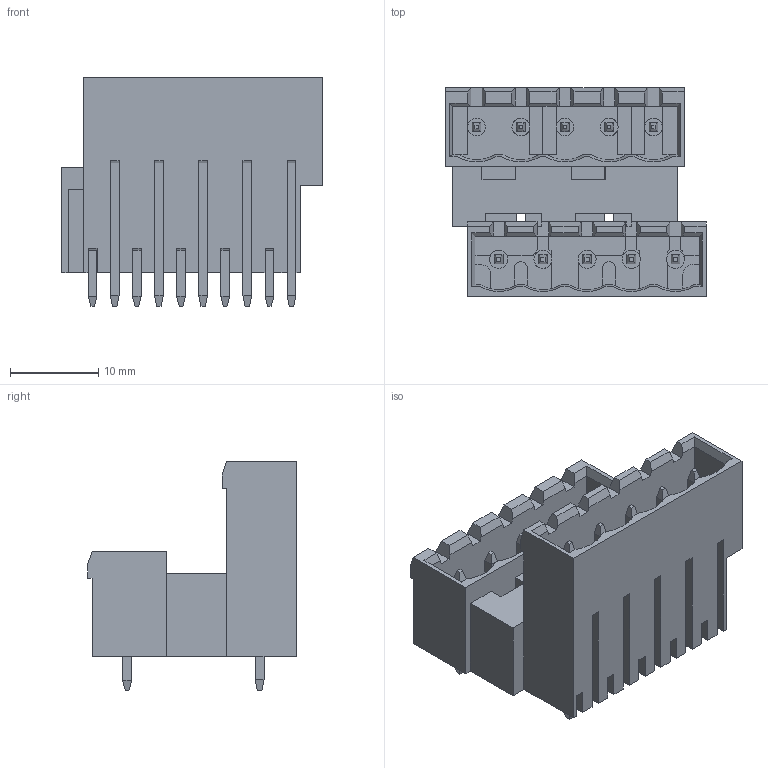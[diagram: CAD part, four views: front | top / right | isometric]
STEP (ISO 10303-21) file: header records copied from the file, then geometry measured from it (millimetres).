
FILE_DESCRIPTION((''),'2;1');
FILE_NAME('395283010','2015-02-12T',('me'),(''),'PRO/ENGINEER BY PARAMETRIC TECHNOLOGY CORPORATION, 2011490','PRO/ENGINEER BY PARAMETRIC TECHNOLOGY CORPORATION, 2011490','');
FILE_SCHEMA(('CONFIG_CONTROL_DESIGN'));
Length unit declared in the file: inch
Products named in the file (1): 395283010
Bounding box: 29.5 x 23.62 x 25.91 mm (x, y, z)
Volume: 5733.3 mm3; surface area: 6592.5 mm2
Topology: 1 solids, 1 shells, 512 faces, 1381 edges, 896 vertices
Faces by surface type: plane 468, cylinder 34, cone 10
Entity records: 15696 total; most frequent: CARTESIAN_POINT 2832, ORIENTED_EDGE 2702, DIRECTION 2507, EDGE_CURVE 1351, VECTOR 1221, LINE 1221, VERTEX_POINT 856, AXIS2_PLACEMENT_3D 643
